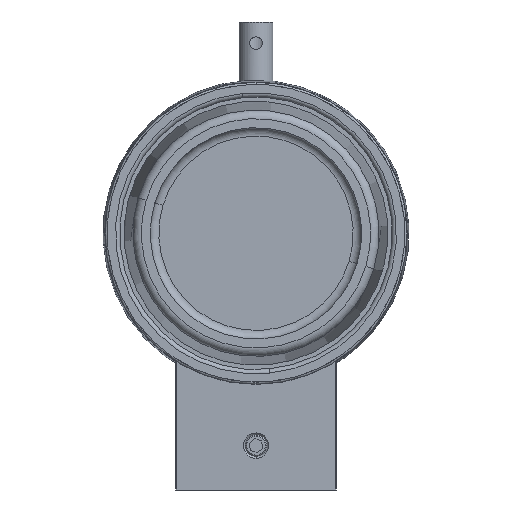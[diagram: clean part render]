
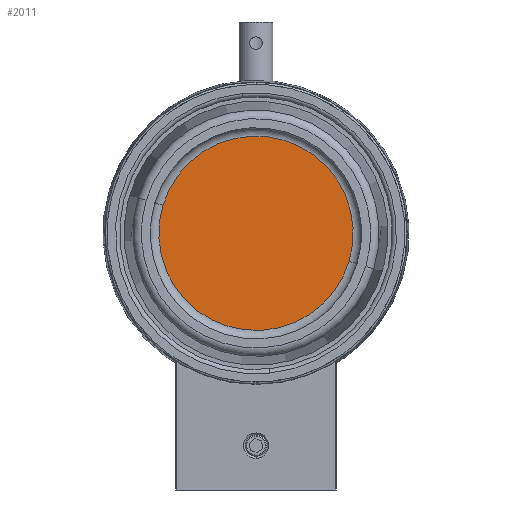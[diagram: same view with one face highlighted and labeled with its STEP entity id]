
A CAD part, front view. The second image highlights one B-rep face of the part: STEP entity #2011.
In plain terms, the highlighted planar face has unit normal (0, -1, 0).
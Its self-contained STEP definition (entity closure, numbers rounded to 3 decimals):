
#80 = DIRECTION ( 'NONE',  ( 0., -1., 0. ) ) ;
#342 = ORIENTED_EDGE ( 'NONE', *, *, #844, .T. ) ;
#393 = PLANE ( 'NONE',  #914 ) ;
#478 = CARTESIAN_POINT ( 'NONE',  ( 0., -75., 60.75 ) ) ;
#726 = CARTESIAN_POINT ( 'NONE',  ( -22.023, -75., 67.383 ) ) ;
#844 = EDGE_CURVE ( 'NONE', #3869, #3076, #4125, .T. ) ;
#872 = DIRECTION ( 'NONE',  ( -0.958, 0., 0.288 ) ) ;
#914 = AXIS2_PLACEMENT_3D ( 'NONE', #2192, #1283, #872 ) ;
#927 = AXIS2_PLACEMENT_3D ( 'NONE', #1330, #4922, #3634 ) ;
#1212 = AXIS2_PLACEMENT_3D ( 'NONE', #478, #80, #5030 ) ;
#1235 = EDGE_LOOP ( 'NONE', ( #5094, #342 ) ) ;
#1283 = DIRECTION ( 'NONE',  ( 0., -1., 0. ) ) ;
#1330 = CARTESIAN_POINT ( 'NONE',  ( 0., -75., 60.75 ) ) ;
#2011 = ADVANCED_FACE ( 'NONE', ( #3443 ), #393, .T. ) ;
#2192 = CARTESIAN_POINT ( 'NONE',  ( 0., -75., 60.75 ) ) ;
#3076 = VERTEX_POINT ( 'NONE', #726 ) ;
#3222 = EDGE_CURVE ( 'NONE', #3076, #3869, #5490, .T. ) ;
#3303 = CARTESIAN_POINT ( 'NONE',  ( 22.023, -75., 54.117 ) ) ;
#3443 = FACE_OUTER_BOUND ( 'NONE', #1235, .T. ) ;
#3634 = DIRECTION ( 'NONE',  ( -0.958, 0., 0.288 ) ) ;
#3869 = VERTEX_POINT ( 'NONE', #3303 ) ;
#4125 = CIRCLE ( 'NONE', #1212, 23. ) ;
#4922 = DIRECTION ( 'NONE',  ( 0., -1., 0. ) ) ;
#5030 = DIRECTION ( 'NONE',  ( -0.958, 0., 0.288 ) ) ;
#5094 = ORIENTED_EDGE ( 'NONE', *, *, #3222, .T. ) ;
#5490 = CIRCLE ( 'NONE', #927, 23. ) ;
